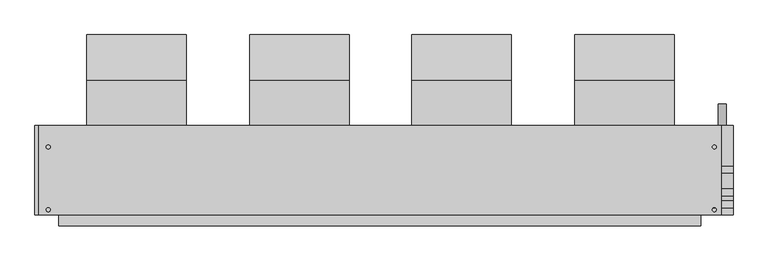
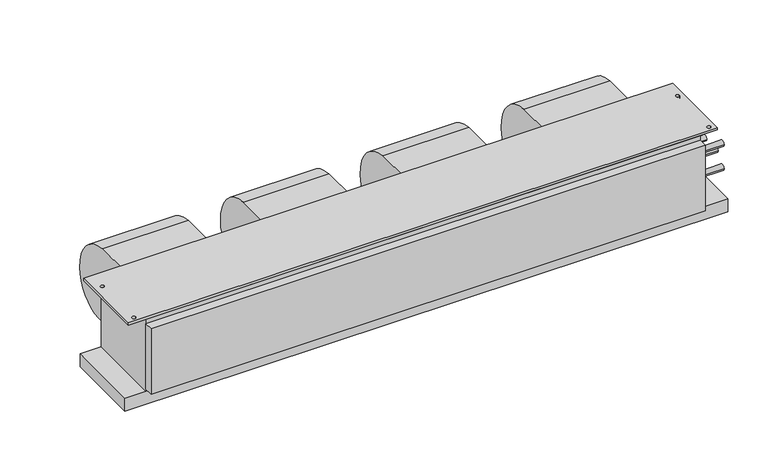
"""IFC4 building model written with IfcOpenShell, lengths in millimetres: proxy geometry, Concealed_Horizontal_Fan_Coil_Unit_-_42CAA_-_CARRIER_-_4-Pipe_RH_2022 : Size 12 - 277v/60Hz/1Ph - 4/1 Coil."""

from ifc_helpers import new_model, si_unit, point, frame, frame_2d, origin, place, context, project, spatial, polyline, circle_curve, trimmed, segment, composite_curve, outline, extrude, source, transform, mapped, element, save


def mechanical_equipment_acb72b8a(model_context):
    return source(origin(), model_context, "Body", "SweptSolid", [
        extrude(outline(composite_curve([segment(trimmed(circle_curve(frame_2d((-33.198831, -136.0299844)), 117.3559541), [point((-23.8125, -19.05))], [point((84.1375, -138.176))], False, "CARTESIAN"), True, "CONTINUOUS"), segment(trimmed(circle_curve(frame_2d((-11.5977337, -136.4250563)), 95.7512443), [point((84.1375, -138.176))], [point((-23.8125, -231.394))], False, "CARTESIAN"), True, "CONTINUOUS"), segment(trimmed(circle_curve(frame_2d((-11.6288131, -136.6666968)), 95.5076133), [point((-23.8125, -231.394))], [point((-107.1245, -138.176))], False, "CARTESIAN"), True, "CONTINUOUS"), segment(trimmed(circle_curve(frame_2d((-126.2059828, -138.4775816)), 19.0838659), [point((-107.1245, -138.176))], [point((-119.3963373, -120.65))], True, "CARTESIAN"), True, "CONTINUOUS"), segment(polyline([(-119.3963373, -120.65), (-131.7625, -120.65), (-131.7625, -19.05), (-23.8125, -19.05)]), True, "CONTINUOUS")], self_intersect=False)), frame((615.188, 0.0, 0.0), z_axis=(1.0, 0.0, 0.0), x_axis=(0.0, 1.0, 0.0)), (0.0, 0.0, 1.0), 235.712),
        extrude(outline(composite_curve([segment(trimmed(circle_curve(frame_2d((-33.198831, -136.0299844)), 117.3559541), [point((-23.8125, -19.05))], [point((84.1375, -138.176))], False, "CARTESIAN"), True, "CONTINUOUS"), segment(trimmed(circle_curve(frame_2d((-11.5977337, -136.4250563)), 95.7512443), [point((84.1375, -138.176))], [point((-23.8125, -231.394))], False, "CARTESIAN"), True, "CONTINUOUS"), segment(trimmed(circle_curve(frame_2d((-11.6288131, -136.6666968)), 95.5076133), [point((-23.8125, -231.394))], [point((-107.1245, -138.176))], False, "CARTESIAN"), True, "CONTINUOUS"), segment(trimmed(circle_curve(frame_2d((-126.2059828, -138.4775816)), 19.0838659), [point((-107.1245, -138.176))], [point((-119.3963373, -120.65))], True, "CARTESIAN"), True, "CONTINUOUS"), segment(polyline([(-119.3963373, -120.65), (-131.7625, -120.65), (-131.7625, -19.05), (-23.8125, -19.05)]), True, "CONTINUOUS")], self_intersect=False)), frame((-543.687, 0.0, 0.0), z_axis=(1.0, 0.0, 0.0), x_axis=(0.0, 1.0, 0.0)), (0.0, 0.0, 1.0), 235.712),
        extrude(outline(composite_curve([segment(trimmed(circle_curve(frame_2d((-33.198831, -136.0299844)), 117.3559541), [point((-23.8125, -19.05))], [point((84.1375, -138.176))], False, "CARTESIAN"), True, "CONTINUOUS"), segment(trimmed(circle_curve(frame_2d((-11.5977337, -136.4250563)), 95.7512443), [point((84.1375, -138.176))], [point((-23.8125, -231.394))], False, "CARTESIAN"), True, "CONTINUOUS"), segment(trimmed(circle_curve(frame_2d((-11.6288131, -136.6666968)), 95.5076133), [point((-23.8125, -231.394))], [point((-107.1245, -138.176))], False, "CARTESIAN"), True, "CONTINUOUS"), segment(trimmed(circle_curve(frame_2d((-126.2059828, -138.4775816)), 19.0838659), [point((-107.1245, -138.176))], [point((-119.3963373, -120.65))], True, "CARTESIAN"), True, "CONTINUOUS"), segment(polyline([(-119.3963373, -120.65), (-131.7625, -120.65), (-131.7625, -19.05), (-23.8125, -19.05)]), True, "CONTINUOUS")], self_intersect=False)), frame((-156.337, 0.0, 0.0), z_axis=(1.0, 0.0, 0.0), x_axis=(0.0, 1.0, 0.0)), (0.0, 0.0, 1.0), 235.712),
        extrude(outline(composite_curve([segment(trimmed(circle_curve(frame_2d((-33.198831, -136.0299844)), 117.3559541), [point((-23.8125, -19.05))], [point((84.1375, -138.176))], False, "CARTESIAN"), True, "CONTINUOUS"), segment(trimmed(circle_curve(frame_2d((-11.5977337, -136.4250563)), 95.7512443), [point((84.1375, -138.176))], [point((-23.8125, -231.394))], False, "CARTESIAN"), True, "CONTINUOUS"), segment(trimmed(circle_curve(frame_2d((-11.6288131, -136.6666968)), 95.5076133), [point((-23.8125, -231.394))], [point((-107.1245, -138.176))], False, "CARTESIAN"), True, "CONTINUOUS"), segment(trimmed(circle_curve(frame_2d((-126.2059828, -138.4775816)), 19.0838659), [point((-107.1245, -138.176))], [point((-119.3963373, -120.65))], True, "CARTESIAN"), True, "CONTINUOUS"), segment(polyline([(-119.3963373, -120.65), (-131.7625, -120.65), (-131.7625, -19.05), (-23.8125, -19.05)]), True, "CONTINUOUS")], self_intersect=False)), frame((227.838, 0.0, 0.0), z_axis=(1.0, 0.0, 0.0), x_axis=(0.0, 1.0, 0.0)), (0.0, 0.0, 1.0), 235.712),
        extrude(outline(polyline([(962.025, -131.7625), (962.025, -344.4875), (-657.225, -344.4875), (-657.225, -131.7625), (962.025, -131.7625)]), holes=[composite_curve([segment(trimmed(circle_curve(frame_2d((-635.0, -182.5625)), 4.7625), [point((-639.7625, -182.5625))], [point((-630.2375, -182.5625))], True, "CARTESIAN"), True, "CONTINUOUS"), segment(trimmed(circle_curve(frame_2d((-635.0, -182.5625)), 4.7625), [point((-630.2375, -182.5625))], [point((-639.7625, -182.5625))], True, "CARTESIAN"), True, "CONTINUOUS")], self_intersect=False), composite_curve([segment(trimmed(circle_curve(frame_2d((-635.0, -331.7875)), 4.7625), [point((-639.7625, -331.7875))], [point((-630.2375, -331.7875))], True, "CARTESIAN"), True, "CONTINUOUS"), segment(trimmed(circle_curve(frame_2d((-635.0, -331.7875)), 4.7625), [point((-630.2375, -331.7875))], [point((-639.7625, -331.7875))], True, "CARTESIAN"), True, "CONTINUOUS")], self_intersect=False), composite_curve([segment(trimmed(circle_curve(frame_2d((946.15, -182.5625)), 4.7625), [point((941.3875, -182.5625))], [point((950.9125, -182.5625))], True, "CARTESIAN"), True, "CONTINUOUS"), segment(trimmed(circle_curve(frame_2d((946.15, -182.5625)), 4.7625), [point((950.9125, -182.5625))], [point((941.3875, -182.5625))], True, "CARTESIAN"), True, "CONTINUOUS")], self_intersect=False), composite_curve([segment(trimmed(circle_curve(frame_2d((946.15, -331.7875)), 4.7625), [point((941.3875, -331.7875))], [point((950.9125, -331.7875))], True, "CARTESIAN"), True, "CONTINUOUS"), segment(trimmed(circle_curve(frame_2d((946.15, -331.7875)), 4.7625), [point((950.9125, -331.7875))], [point((941.3875, -331.7875))], True, "CARTESIAN"), True, "CONTINUOUS")], self_intersect=False)]), frame((0.0, 0.0, -6.35), z_axis=(0.0, 0.0, 1.0), x_axis=(1.0, 0.0, 0.0)), (0.0, 0.0, 1.0), 6.35),
        extrude(outline(composite_curve([segment(trimmed(circle_curve(frame_2d((-241.3, 965.2)), 9.525), [point((-241.3, 955.675))], [point((-241.3, 974.725))], False, "CARTESIAN"), True, "CONTINUOUS"), segment(trimmed(circle_curve(frame_2d((-241.3, 965.2)), 9.525), [point((-241.3, 974.725))], [point((-241.3, 955.675))], False, "CARTESIAN"), True, "CONTINUOUS")], self_intersect=False)), frame((0.0, -131.7625, 0.0), z_axis=(0.0, 1.0, 0.0), x_axis=(0.0, 0.0, 1.0)), (0.0, 0.0, 1.0), 50.8),
        extrude(outline(polyline([(914.4, -369.8875), (-609.6, -369.8875), (-609.6, -344.4875), (914.4, -344.4875), (914.4, -369.8875)])), frame((0.0, 0.0, -209.55), z_axis=(0.0, 0.0, 1.0), x_axis=(1.0, 0.0, 0.0)), (0.0, 0.0, 1.0), 190.5),
        extrude(outline(polyline([(990.6, -131.7625), (990.6, -344.4875), (-666.75, -344.4875), (-666.75, -131.7625), (990.6, -131.7625)])), frame((0.0, 0.0, -254.0), z_axis=(0.0, 0.0, 1.0), x_axis=(1.0, 0.0, 0.0)), (0.0, 0.0, 1.0), 38.1),
        extrude(outline(composite_curve([segment(trimmed(circle_curve(frame_2d((-236.5375, -104.775)), 7.9375), [point((-244.475, -104.775))], [point((-228.6, -104.775))], False, "CARTESIAN"), True, "CONTINUOUS"), segment(trimmed(circle_curve(frame_2d((-236.5375, -104.775)), 7.9375), [point((-228.6, -104.775))], [point((-244.475, -104.775))], False, "CARTESIAN"), True, "CONTINUOUS")], self_intersect=False)), frame((914.4, 0.0, 0.0), z_axis=(1.0, 0.0, 0.0), x_axis=(0.0, 1.0, 0.0)), (0.0, 0.0, 1.0), 76.2),
        extrude(outline(composite_curve([segment(trimmed(circle_curve(frame_2d((-290.5125, -104.775)), 7.9375), [point((-298.45, -104.775))], [point((-282.575, -104.775))], False, "CARTESIAN"), True, "CONTINUOUS"), segment(trimmed(circle_curve(frame_2d((-290.5125, -104.775)), 7.9375), [point((-282.575, -104.775))], [point((-298.45, -104.775))], False, "CARTESIAN"), True, "CONTINUOUS")], self_intersect=False)), frame((914.4, 0.0, 0.0), z_axis=(1.0, 0.0, 0.0), x_axis=(0.0, 1.0, 0.0)), (0.0, 0.0, 1.0), 76.2),
        extrude(outline(composite_curve([segment(trimmed(circle_curve(frame_2d((-319.0875, -69.85)), 7.9375), [point((-327.025, -69.85))], [point((-311.15, -69.85))], False, "CARTESIAN"), True, "CONTINUOUS"), segment(trimmed(circle_curve(frame_2d((-319.0875, -69.85)), 7.9375), [point((-311.15, -69.85))], [point((-327.025, -69.85))], False, "CARTESIAN"), True, "CONTINUOUS")], self_intersect=False)), frame((914.4, 0.0, 0.0), z_axis=(1.0, 0.0, 0.0), x_axis=(0.0, 1.0, 0.0)), (0.0, 0.0, 1.0), 76.2),
        extrude(outline(composite_curve([segment(trimmed(circle_curve(frame_2d((-319.0875, -139.7)), 7.9375), [point((-327.025, -139.7))], [point((-311.15, -139.7))], False, "CARTESIAN"), True, "CONTINUOUS"), segment(trimmed(circle_curve(frame_2d((-319.0875, -139.7)), 7.9375), [point((-311.15, -139.7))], [point((-327.025, -139.7))], False, "CARTESIAN"), True, "CONTINUOUS")], self_intersect=False)), frame((914.4, 0.0, 0.0), z_axis=(1.0, 0.0, 0.0), x_axis=(0.0, 1.0, 0.0)), (0.0, 0.0, 1.0), 76.2),
        extrude(outline(polyline([(914.4, -344.4875), (-609.6, -344.4875), (-609.6, -131.7625), (914.4, -131.7625), (914.4, -344.4875)])), frame((0.0, 0.0, -215.9), z_axis=(0.0, 0.0, 1.0), x_axis=(1.0, 0.0, 0.0)), (0.0, 0.0, 1.0), 209.55),
    ])


if __name__ == "__main__":
    model = new_model("IFC4")
    model_context = context("Model", 3, world=origin())
    ifc_project = project(units=[si_unit("LENGTHUNIT", "METRE", prefix="MILLI")], contexts=[model_context])
    site = spatial("IfcSite", under=ifc_project)
    building = spatial("IfcBuilding", under=site)
    placement = place(None, origin())
    mechanical_equipment_shape = mechanical_equipment_acb72b8a(model_context)
    element("IfcBuildingElementProxy", 1, Name="Concealed_Horizontal_Fan_Coil_Unit_-_42CAA_-_CARRIER_-_4-Pipe_RH_2022 : Size 12 - 277v/60Hz/1Ph - 4/1 Coil", ObjectType="Concealed_Horizontal_Fan_Coil_Unit_-_42CAA_-_CARRIER_-_4-Pipe_RH_2022 : Size 12 - 277v/60Hz/1Ph - 4/1 Coil", at=placement, inside=building, context=model_context, shape_type="MappedRepresentation", body=[
        mapped(mechanical_equipment_shape, transform((0.0, 0.0, 0.0), x_axis=(1.0, 0.0, 0.0), y_axis=(0.0, 1.0, 0.0), z_axis=(0.0, 0.0, 1.0))),
    ])
    save(model, "model.ifc")
